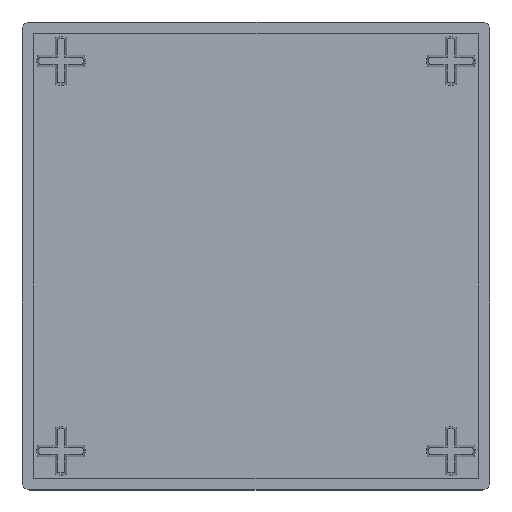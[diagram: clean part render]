
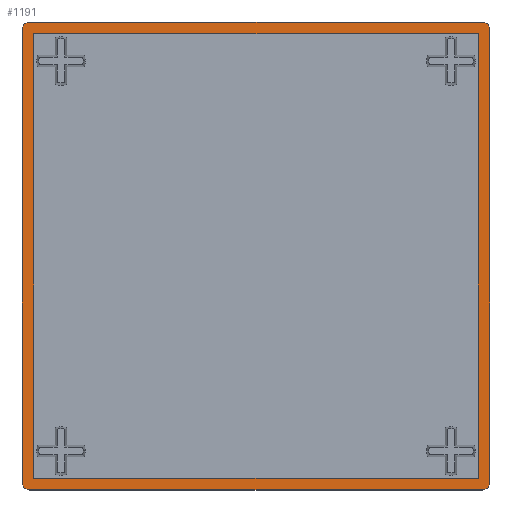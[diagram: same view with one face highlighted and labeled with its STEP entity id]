
A CAD part, top view. The second image highlights one B-rep face of the part: STEP entity #1191.
In plain terms, the highlighted planar face has unit normal (0, 0, 1).
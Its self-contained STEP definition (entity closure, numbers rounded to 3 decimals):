
#27 = CARTESIAN_POINT ( 'NONE',  ( 30., 29., 5. ) ) ;
#31 = DIRECTION ( 'NONE',  ( 0., 0., -1. ) ) ;
#36 = CARTESIAN_POINT ( 'NONE',  ( -29., 30., 5. ) ) ;
#65 = DIRECTION ( 'NONE',  ( 0., -1., 0. ) ) ;
#97 = EDGE_CURVE ( 'NONE', #2138, #1162, #1454, .T. ) ;
#116 = ORIENTED_EDGE ( 'NONE', *, *, #1950, .T. ) ;
#150 = LINE ( 'NONE', #601, #1144 ) ;
#192 = CARTESIAN_POINT ( 'NONE',  ( 29., -29., 5. ) ) ;
#205 = CARTESIAN_POINT ( 'NONE',  ( 15., -28.5, 5. ) ) ;
#244 = VERTEX_POINT ( 'NONE', #795 ) ;
#267 = AXIS2_PLACEMENT_3D ( 'NONE', #1301, #1438, #1563 ) ;
#288 = DIRECTION ( 'NONE',  ( 1., 0., 0. ) ) ;
#297 = CARTESIAN_POINT ( 'NONE',  ( 0., 0., 5. ) ) ;
#320 = VECTOR ( 'NONE', #1387, 1000. ) ;
#322 = FACE_OUTER_BOUND ( 'NONE', #1196, .T. ) ;
#342 = ORIENTED_EDGE ( 'NONE', *, *, #803, .F. ) ;
#344 = VECTOR ( 'NONE', #1800, 1000. ) ;
#413 = VERTEX_POINT ( 'NONE', #558 ) ;
#426 = CIRCLE ( 'NONE', #1451, 1. ) ;
#440 = VECTOR ( 'NONE', #1573, 1000. ) ;
#525 = EDGE_CURVE ( 'NONE', #1162, #2062, #1102, .T. ) ;
#536 = CARTESIAN_POINT ( 'NONE',  ( 30., -29., 5. ) ) ;
#545 = ORIENTED_EDGE ( 'NONE', *, *, #1973, .F. ) ;
#553 = EDGE_CURVE ( 'NONE', #698, #1089, #2181, .T. ) ;
#555 = CARTESIAN_POINT ( 'NONE',  ( -30., -29., 5. ) ) ;
#558 = CARTESIAN_POINT ( 'NONE',  ( 28.5, 28.5, 5. ) ) ;
#564 = VERTEX_POINT ( 'NONE', #1075 ) ;
#601 = CARTESIAN_POINT ( 'NONE',  ( 28.5, 15., 5. ) ) ;
#606 = DIRECTION ( 'NONE',  ( 0., 0., -1. ) ) ;
#627 = DIRECTION ( 'NONE',  ( 0., -1., 0. ) ) ;
#635 = ORIENTED_EDGE ( 'NONE', *, *, #835, .T. ) ;
#639 = LINE ( 'NONE', #784, #872 ) ;
#698 = VERTEX_POINT ( 'NONE', #555 ) ;
#701 = CIRCLE ( 'NONE', #1817, 1. ) ;
#784 = CARTESIAN_POINT ( 'NONE',  ( -30., -30., 5. ) ) ;
#790 = VECTOR ( 'NONE', #1710, 1000. ) ;
#795 = CARTESIAN_POINT ( 'NONE',  ( 29., -30., 5. ) ) ;
#803 = EDGE_CURVE ( 'NONE', #564, #1303, #1811, .T. ) ;
#835 = EDGE_CURVE ( 'NONE', #2062, #413, #1834, .T. ) ;
#848 = ORIENTED_EDGE ( 'NONE', *, *, #553, .F. ) ;
#854 = ORIENTED_EDGE ( 'NONE', *, *, #525, .T. ) ;
#860 = LINE ( 'NONE', #2219, #790 ) ;
#872 = VECTOR ( 'NONE', #1029, 1000. ) ;
#957 = AXIS2_PLACEMENT_3D ( 'NONE', #297, #1053, #288 ) ;
#986 = ORIENTED_EDGE ( 'NONE', *, *, #1224, .F. ) ;
#1009 = CARTESIAN_POINT ( 'NONE',  ( -29., -30., 5. ) ) ;
#1014 = EDGE_CURVE ( 'NONE', #244, #2257, #639, .T. ) ;
#1028 = CARTESIAN_POINT ( 'NONE',  ( -30., 30., 5. ) ) ;
#1029 = DIRECTION ( 'NONE',  ( -1., 0., 0. ) ) ;
#1053 = DIRECTION ( 'NONE',  ( 0., 0., 1. ) ) ;
#1075 = CARTESIAN_POINT ( 'NONE',  ( 29., 30., 5. ) ) ;
#1089 = VERTEX_POINT ( 'NONE', #2110 ) ;
#1102 = LINE ( 'NONE', #2102, #440 ) ;
#1104 = CARTESIAN_POINT ( 'NONE',  ( -29., -29., 5. ) ) ;
#1144 = VECTOR ( 'NONE', #1372, 1000. ) ;
#1162 = VERTEX_POINT ( 'NONE', #1952 ) ;
#1191 = ADVANCED_FACE ( 'NONE', ( #2229, #322 ), #1747, .T. ) ;
#1196 = EDGE_LOOP ( 'NONE', ( #342, #545, #1620, #848, #2008, #1790, #1332, #986 ) ) ;
#1197 = CARTESIAN_POINT ( 'NONE',  ( 30., -30., 5. ) ) ;
#1224 = EDGE_CURVE ( 'NONE', #1303, #1465, #2154, .T. ) ;
#1284 = DIRECTION ( 'NONE',  ( -1., 0., 0. ) ) ;
#1301 = CARTESIAN_POINT ( 'NONE',  ( 29., 29., 5. ) ) ;
#1303 = VERTEX_POINT ( 'NONE', #27 ) ;
#1332 = ORIENTED_EDGE ( 'NONE', *, *, #1665, .F. ) ;
#1372 = DIRECTION ( 'NONE',  ( 0., -1., 0. ) ) ;
#1377 = EDGE_CURVE ( 'NONE', #1089, #1807, #2291, .T. ) ;
#1378 = CARTESIAN_POINT ( 'NONE',  ( 28.5, -28.5, 5. ) ) ;
#1383 = AXIS2_PLACEMENT_3D ( 'NONE', #2310, #1809, #1993 ) ;
#1387 = DIRECTION ( 'NONE',  ( 0., -1., 0. ) ) ;
#1438 = DIRECTION ( 'NONE',  ( 0., 0., -1. ) ) ;
#1451 = AXIS2_PLACEMENT_3D ( 'NONE', #1104, #606, #627 ) ;
#1454 = LINE ( 'NONE', #205, #2097 ) ;
#1465 = VERTEX_POINT ( 'NONE', #536 ) ;
#1472 = CARTESIAN_POINT ( 'NONE',  ( -15., 28.5, 5. ) ) ;
#1563 = DIRECTION ( 'NONE',  ( 0., -1., 0. ) ) ;
#1573 = DIRECTION ( 'NONE',  ( 0., 1., 0. ) ) ;
#1620 = ORIENTED_EDGE ( 'NONE', *, *, #1377, .F. ) ;
#1650 = EDGE_CURVE ( 'NONE', #2257, #698, #426, .T. ) ;
#1665 = EDGE_CURVE ( 'NONE', #1465, #244, #701, .T. ) ;
#1710 = DIRECTION ( 'NONE',  ( 1., 0., 0. ) ) ;
#1747 = PLANE ( 'NONE',  #957 ) ;
#1790 = ORIENTED_EDGE ( 'NONE', *, *, #1014, .F. ) ;
#1800 = DIRECTION ( 'NONE',  ( 0., 1., 0. ) ) ;
#1807 = VERTEX_POINT ( 'NONE', #36 ) ;
#1809 = DIRECTION ( 'NONE',  ( 0., 0., -1. ) ) ;
#1811 = CIRCLE ( 'NONE', #267, 1. ) ;
#1817 = AXIS2_PLACEMENT_3D ( 'NONE', #192, #31, #65 ) ;
#1834 = LINE ( 'NONE', #1472, #2307 ) ;
#1854 = ORIENTED_EDGE ( 'NONE', *, *, #97, .T. ) ;
#1950 = EDGE_CURVE ( 'NONE', #413, #2138, #150, .T. ) ;
#1952 = CARTESIAN_POINT ( 'NONE',  ( -28.5, -28.5, 5. ) ) ;
#1973 = EDGE_CURVE ( 'NONE', #1807, #564, #860, .T. ) ;
#1993 = DIRECTION ( 'NONE',  ( 0., -1., 0. ) ) ;
#2008 = ORIENTED_EDGE ( 'NONE', *, *, #1650, .F. ) ;
#2057 = DIRECTION ( 'NONE',  ( 1., 0., 0. ) ) ;
#2062 = VERTEX_POINT ( 'NONE', #2083 ) ;
#2081 = EDGE_LOOP ( 'NONE', ( #854, #635, #116, #1854 ) ) ;
#2083 = CARTESIAN_POINT ( 'NONE',  ( -28.5, 28.5, 5. ) ) ;
#2097 = VECTOR ( 'NONE', #1284, 1000. ) ;
#2102 = CARTESIAN_POINT ( 'NONE',  ( -28.5, -15., 5. ) ) ;
#2110 = CARTESIAN_POINT ( 'NONE',  ( -30., 29., 5. ) ) ;
#2138 = VERTEX_POINT ( 'NONE', #1378 ) ;
#2154 = LINE ( 'NONE', #1197, #320 ) ;
#2181 = LINE ( 'NONE', #1028, #344 ) ;
#2219 = CARTESIAN_POINT ( 'NONE',  ( 30., 30., 5. ) ) ;
#2229 = FACE_BOUND ( 'NONE', #2081, .T. ) ;
#2257 = VERTEX_POINT ( 'NONE', #1009 ) ;
#2291 = CIRCLE ( 'NONE', #1383, 1. ) ;
#2307 = VECTOR ( 'NONE', #2057, 1000. ) ;
#2310 = CARTESIAN_POINT ( 'NONE',  ( -29., 29., 5. ) ) ;
